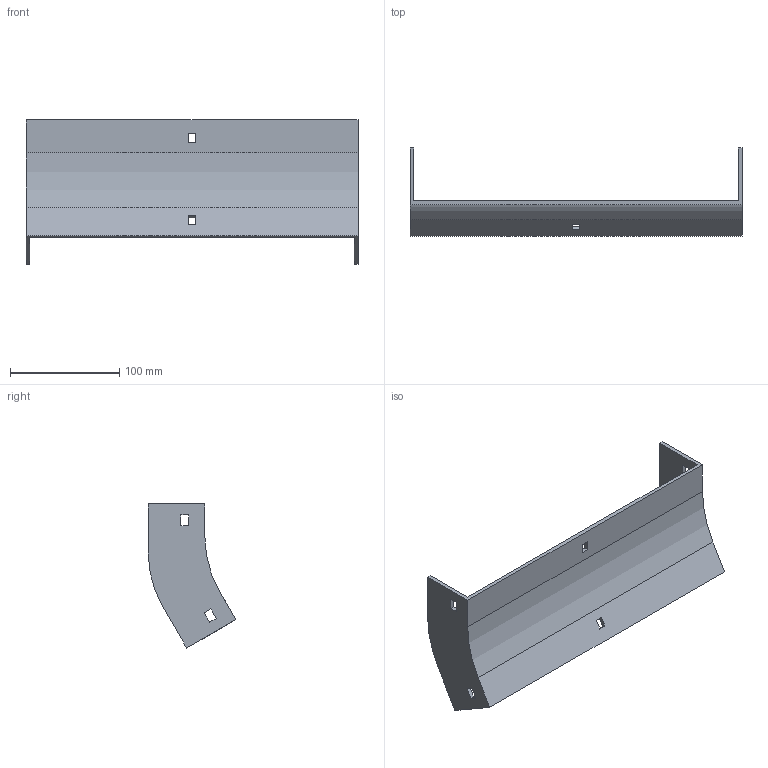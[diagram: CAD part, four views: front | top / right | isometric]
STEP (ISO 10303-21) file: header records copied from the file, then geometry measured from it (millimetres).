
FILE_DESCRIPTION (( 'STEP AP214' ), '1' );
FILE_NAME ('35F1B300.step', '2025-02-21T12:49:30', ( '' ), ( '' ), 'SwSTEP 2.0', 'SolidWorks 2023', '' );
FILE_SCHEMA (( 'AUTOMOTIVE_DESIGN' ));
Length unit declared in the file: millimetre
Products named in the file (1): 35F1B300
Bounding box: 304 x 80.4 x 131.98 mm (x, y, z)
Volume: 162779.5 mm3; surface area: 97492 mm2
Topology: 1 solids, 1 shells, 42 faces, 120 edges, 80 vertices
Faces by surface type: plane 38, cylinder 4
Entity records: 1399 total; most frequent: CARTESIAN_POINT 243, ORIENTED_EDGE 240, DIRECTION 214, EDGE_CURVE 120, VECTOR 112, LINE 112, VERTEX_POINT 80, EDGE_LOOP 54
